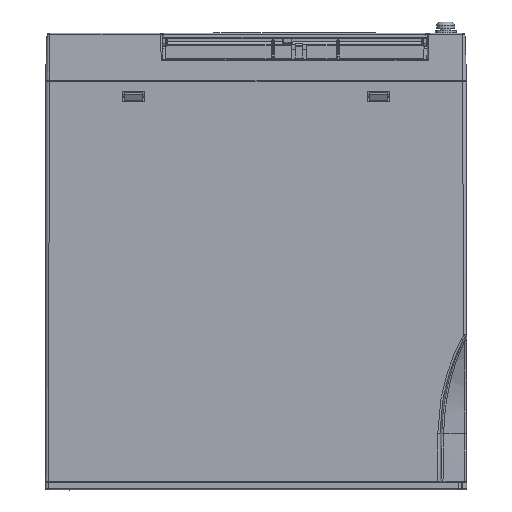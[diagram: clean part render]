
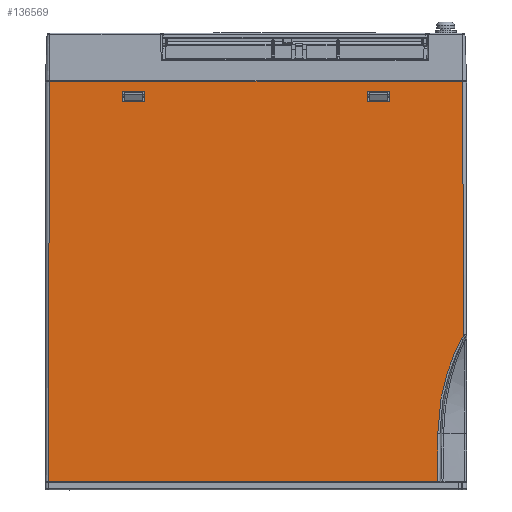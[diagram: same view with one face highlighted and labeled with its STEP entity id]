
A CAD part, front view. The second image highlights one B-rep face of the part: STEP entity #136569.
In plain terms, the highlighted planar face has unit normal (0, -1, 0).
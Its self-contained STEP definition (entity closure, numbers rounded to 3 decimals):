
#133367=CARTESIAN_POINT('',(77.92,-25.,
57.265));
#133368=CARTESIAN_POINT('',(78.082,-25.,
57.575));
#133369=CARTESIAN_POINT('',(78.426,-25.,
58.148));
#133370=CARTESIAN_POINT('',(78.803,-25.,
58.632));
#133371=CARTESIAN_POINT('',(79.003,-25.,
58.85));
#133373=CARTESIAN_POINT('',(69.075,-25.,
21.396));
#133374=CARTESIAN_POINT('',(69.075,-25.,
22.887));
#133375=CARTESIAN_POINT('',(69.166,-25.,
25.731));
#133376=CARTESIAN_POINT('',(69.488,-25.,
29.547));
#133377=CARTESIAN_POINT('',(69.948,-25.,
33.037));
#133378=CARTESIAN_POINT('',(70.517,-25.,
36.261));
#133379=CARTESIAN_POINT('',(71.146,-25.,
39.14));
#133380=CARTESIAN_POINT('',(71.812,-25.,
41.741));
#133381=CARTESIAN_POINT('',(72.501,-25.,
44.106));
#133382=CARTESIAN_POINT('',(73.216,-25.,
46.306));
#133383=CARTESIAN_POINT('',(73.943,-25.,
48.345));
#133384=CARTESIAN_POINT('',(74.665,-25.,
50.209));
#133385=CARTESIAN_POINT('',(75.371,-25.,
51.908));
#133386=CARTESIAN_POINT('',(76.056,-25.,
53.458));
#133387=CARTESIAN_POINT('',(76.712,-25.,
54.861));
#133388=CARTESIAN_POINT('',(77.335,-25.,
56.13));
#133389=CARTESIAN_POINT('',(77.73,-25.,
56.9));
#133390=CARTESIAN_POINT('',(77.92,-25.,
57.265));
#133392=CARTESIAN_POINT('',(69.043,-25.,3.2));
#133393=CARTESIAN_POINT('',(69.047,-25.,
5.212));
#133394=CARTESIAN_POINT('',(69.053,-25.,
9.243));
#133395=CARTESIAN_POINT('',(69.064,-25.,
15.31));
#133396=CARTESIAN_POINT('',(69.071,-25.,
19.365));
#133397=CARTESIAN_POINT('',(69.075,-25.,
21.396));
#133399=DIRECTION('',(-0.004,0.,-1.));
#133400=VECTOR('',#133399,152.151);
#133401=CARTESIAN_POINT('',(-78.4,-25.,155.35));
#133402=LINE('',#133401,#133400);
#133403=DIRECTION('',(1.,0.,0.));
#133404=VECTOR('',#133403,156.8);
#133405=CARTESIAN_POINT('',(-78.4,-25.,155.35));
#133406=LINE('',#133405,#133404);
#133407=DIRECTION('',(0.006,0.,-1.));
#133408=VECTOR('',#133407,96.502);
#133409=CARTESIAN_POINT('',(78.4,-25.,155.35));
#133410=LINE('',#133409,#133408);
#133415=DIRECTION('',(-1.,0.,0.));
#133416=VECTOR('',#133415,7.6);
#133417=CARTESIAN_POINT('',(50.4,-25.,147.6));
#133418=LINE('',#133417,#133416);
#133433=CARTESIAN_POINT('',(50.4,-25.,148.1));
#133434=DIRECTION('',(0.,1.,0.));
#133435=DIRECTION('',(1.,0.,0.));
#133436=AXIS2_PLACEMENT_3D('',#133433,#133434,#133435);
#133446=DIRECTION('',(0.,0.,1.));
#133447=VECTOR('',#133446,2.75);
#133448=CARTESIAN_POINT('',(50.9,-25.,148.1));
#133449=LINE('',#133448,#133447);
#133458=CARTESIAN_POINT('',(50.4,-25.,150.85));
#133459=DIRECTION('',(0.,1.,0.));
#133460=DIRECTION('',(0.,0.,1.));
#133461=AXIS2_PLACEMENT_3D('',#133458,#133459,#133460);
#133480=DIRECTION('',(1.,0.,0.));
#133481=VECTOR('',#133480,7.6);
#133482=CARTESIAN_POINT('',(42.8,-25.,151.35));
#133483=LINE('',#133482,#133481);
#133504=CARTESIAN_POINT('',(42.8,-25.,148.1));
#133505=DIRECTION('',(0.,1.,0.));
#133506=DIRECTION('',(0.,0.,-1.));
#133507=AXIS2_PLACEMENT_3D('',#133504,#133505,#133506);
#133519=DIRECTION('',(0.,0.,-1.));
#133520=VECTOR('',#133519,2.75);
#133521=CARTESIAN_POINT('',(42.3,-25.,150.85));
#133522=LINE('',#133521,#133520);
#133536=CARTESIAN_POINT('',(42.8,-25.,150.85));
#133537=DIRECTION('',(0.,1.,0.));
#133538=DIRECTION('',(-1.,0.,0.));
#133539=AXIS2_PLACEMENT_3D('',#133536,#133537,#133538);
#133541=CARTESIAN_POINT('',(78.4,-25.,155.35));
#133551=CARTESIAN_POINT('',(-78.4,-25.,155.35));
#134218=CARTESIAN_POINT('',(-79.,-25.,3.2));
#134224=DIRECTION('',(1.,0.,0.));
#134225=VECTOR('',#134224,148.043);
#134226=CARTESIAN_POINT('',(-79.,-25.,3.2));
#134227=LINE('',#134226,#134225);
#134234=CARTESIAN_POINT('',(69.043,-25.,3.2));
#135736=DIRECTION('',(0.,0.,1.));
#135737=VECTOR('',#135736,2.75);
#135738=CARTESIAN_POINT('',(-42.3,-25.,148.1));
#135739=LINE('',#135738,#135737);
#135748=CARTESIAN_POINT('',(-42.8,-25.,150.85));
#135749=DIRECTION('',(0.,1.,0.));
#135750=DIRECTION('',(0.,0.,1.));
#135751=AXIS2_PLACEMENT_3D('',#135748,#135749,#135750);
#135762=DIRECTION('',(1.,0.,0.));
#135763=VECTOR('',#135762,7.6);
#135764=CARTESIAN_POINT('',(-50.4,-25.,151.35));
#135765=LINE('',#135764,#135763);
#135779=CARTESIAN_POINT('',(-50.4,-25.,150.85));
#135780=DIRECTION('',(0.,1.,0.));
#135781=DIRECTION('',(-1.,0.,0.));
#135782=AXIS2_PLACEMENT_3D('',#135779,#135780,#135781);
#135788=DIRECTION('',(0.,0.,-1.));
#135789=VECTOR('',#135788,2.75);
#135790=CARTESIAN_POINT('',(-50.9,-25.,150.85));
#135791=LINE('',#135790,#135789);
#135800=CARTESIAN_POINT('',(-50.4,-25.,148.1));
#135801=DIRECTION('',(0.,1.,0.));
#135802=DIRECTION('',(0.,0.,-1.));
#135803=AXIS2_PLACEMENT_3D('',#135800,#135801,#135802);
#135823=DIRECTION('',(-1.,0.,0.));
#135824=VECTOR('',#135823,7.6);
#135825=CARTESIAN_POINT('',(-42.8,-25.,147.6));
#135826=LINE('',#135825,#135824);
#135837=CARTESIAN_POINT('',(-42.8,-25.,148.1));
#135838=DIRECTION('',(0.,1.,0.));
#135839=DIRECTION('',(1.,0.,0.));
#135840=AXIS2_PLACEMENT_3D('',#135837,#135838,#135839);
#135990=VERTEX_POINT('',#134218);
#135994=VERTEX_POINT('',#133551);
#136247=CARTESIAN_POINT('',(50.4,-25.,151.35));
#136249=VERTEX_POINT('',#136247);
#136251=CARTESIAN_POINT('',(50.9,-25.,150.85));
#136253=VERTEX_POINT('',#136251);
#136256=CARTESIAN_POINT('',(50.4,-25.,147.6));
#136258=VERTEX_POINT('',#136256);
#136260=CARTESIAN_POINT('',(50.9,-25.,148.1));
#136262=VERTEX_POINT('',#136260);
#136263=CARTESIAN_POINT('',(42.8,-25.,147.6));
#136265=VERTEX_POINT('',#136263);
#136267=CARTESIAN_POINT('',(42.3,-25.,148.1));
#136269=VERTEX_POINT('',#136267);
#136272=CARTESIAN_POINT('',(42.8,-25.,151.35));
#136274=VERTEX_POINT('',#136272);
#136276=CARTESIAN_POINT('',(42.3,-25.,150.85));
#136278=VERTEX_POINT('',#136276);
#136279=CARTESIAN_POINT('',(-50.4,-25.,147.6));
#136281=VERTEX_POINT('',#136279);
#136283=CARTESIAN_POINT('',(-50.9,-25.,148.1));
#136285=VERTEX_POINT('',#136283);
#136288=CARTESIAN_POINT('',(-50.4,-25.,151.35));
#136290=VERTEX_POINT('',#136288);
#136292=CARTESIAN_POINT('',(-50.9,-25.,150.85));
#136294=VERTEX_POINT('',#136292);
#136295=CARTESIAN_POINT('',(-42.8,-25.,151.35));
#136297=VERTEX_POINT('',#136295);
#136299=CARTESIAN_POINT('',(-42.3,-25.,150.85));
#136301=VERTEX_POINT('',#136299);
#136304=CARTESIAN_POINT('',(-42.8,-25.,147.6));
#136306=VERTEX_POINT('',#136304);
#136308=CARTESIAN_POINT('',(-42.3,-25.,148.1));
#136310=VERTEX_POINT('',#136308);
#136362=VERTEX_POINT('',#133367);
#136363=VERTEX_POINT('',#133371);
#136366=VERTEX_POINT('',#133373);
#136369=VERTEX_POINT('',#134234);
#136450=VERTEX_POINT('',#133541);
#136512=CARTESIAN_POINT('',(50.,-25.,13.));
#136513=DIRECTION('',(0.,1.,0.));
#136514=DIRECTION('',(0.,0.,1.));
#136515=AXIS2_PLACEMENT_3D('',#136512,#136513,#136514);
#136516=PLANE('',#136515);
#136518=ORIENTED_EDGE('',*,*,#136517,.F.);
#136520=ORIENTED_EDGE('',*,*,#136519,.F.);
#136522=ORIENTED_EDGE('',*,*,#136521,.F.);
#136524=ORIENTED_EDGE('',*,*,#136523,.F.);
#136526=ORIENTED_EDGE('',*,*,#136525,.F.);
#136528=ORIENTED_EDGE('',*,*,#136527,.T.);
#136530=ORIENTED_EDGE('',*,*,#136529,.T.);
#136531=EDGE_LOOP('',(#136518,#136520,#136522,#136524,#136526,#136528,#136530));
#136532=FACE_OUTER_BOUND('',#136531,.F.);
#136534=ORIENTED_EDGE('',*,*,#136533,.T.);
#136536=ORIENTED_EDGE('',*,*,#136535,.F.);
#136538=ORIENTED_EDGE('',*,*,#136537,.F.);
#136540=ORIENTED_EDGE('',*,*,#136539,.F.);
#136542=ORIENTED_EDGE('',*,*,#136541,.T.);
#136544=ORIENTED_EDGE('',*,*,#136543,.F.);
#136546=ORIENTED_EDGE('',*,*,#136545,.F.);
#136548=ORIENTED_EDGE('',*,*,#136547,.F.);
#136549=EDGE_LOOP('',(#136534,#136536,#136538,#136540,#136542,#136544,#136546,
#136548));
#136550=FACE_BOUND('',#136549,.F.);
#136552=ORIENTED_EDGE('',*,*,#136551,.F.);
#136554=ORIENTED_EDGE('',*,*,#136553,.F.);
#136556=ORIENTED_EDGE('',*,*,#136555,.T.);
#136558=ORIENTED_EDGE('',*,*,#136557,.F.);
#136560=ORIENTED_EDGE('',*,*,#136559,.F.);
#136562=ORIENTED_EDGE('',*,*,#136561,.F.);
#136564=ORIENTED_EDGE('',*,*,#136563,.T.);
#136566=ORIENTED_EDGE('',*,*,#136565,.F.);
#136567=EDGE_LOOP('',(#136552,#136554,#136556,#136558,#136560,#136562,#136564,
#136566));
#136568=FACE_BOUND('',#136567,.F.);
#136569=ADVANCED_FACE('',(#136532,#136550,#136568),#136516,.F.);
#133372=B_SPLINE_CURVE_WITH_KNOTS('',3,(#133367,#133368,#133369,#133370,
#133371),.UNSPECIFIED.,.F.,.F.,(4,1,4),(0.,0.5,1.),.UNSPECIFIED.);
#133391=B_SPLINE_CURVE_WITH_KNOTS('',3,(#133373,#133374,#133375,#133376,#133377,
#133378,#133379,#133380,#133381,#133382,#133383,#133384,#133385,#133386,#133387,
#133388,#133389,#133390),.UNSPECIFIED.,.F.,.F.,(4,1,1,1,1,1,1,1,1,1,1,1,1,1,1,
4),(0.,0.067,0.133,0.2,0.267,
0.333,0.4,0.467,0.533,0.6,
0.667,0.733,0.8,0.867,0.933,
1.),.UNSPECIFIED.);
#133398=B_SPLINE_CURVE_WITH_KNOTS('',3,(#133392,#133393,#133394,#133395,#133396,
#133397),.UNSPECIFIED.,.F.,.F.,(4,1,1,4),(0.,0.333,
0.667,1.),.UNSPECIFIED.);
#133437=CIRCLE('',#133436,0.5);
#133462=CIRCLE('',#133461,0.5);
#133508=CIRCLE('',#133507,0.5);
#133540=CIRCLE('',#133539,0.5);
#135752=CIRCLE('',#135751,0.5);
#135783=CIRCLE('',#135782,0.5);
#135804=CIRCLE('',#135803,0.5);
#135841=CIRCLE('',#135840,0.5);
#136517=EDGE_CURVE('',#136362,#136363,#133372,.T.);
#136519=EDGE_CURVE('',#136366,#136362,#133391,.T.);
#136521=EDGE_CURVE('',#136369,#136366,#133398,.T.);
#136523=EDGE_CURVE('',#135990,#136369,#134227,.T.);
#136525=EDGE_CURVE('',#135994,#135990,#133402,.T.);
#136527=EDGE_CURVE('',#135994,#136450,#133406,.T.);
#136529=EDGE_CURVE('',#136450,#136363,#133410,.T.);
#136533=EDGE_CURVE('',#136294,#136285,#135791,.T.);
#136535=EDGE_CURVE('',#136281,#136285,#135804,.T.);
#136537=EDGE_CURVE('',#136306,#136281,#135826,.T.);
#136539=EDGE_CURVE('',#136310,#136306,#135841,.T.);
#136541=EDGE_CURVE('',#136310,#136301,#135739,.T.);
#136543=EDGE_CURVE('',#136297,#136301,#135752,.T.);
#136545=EDGE_CURVE('',#136290,#136297,#135765,.T.);
#136547=EDGE_CURVE('',#136294,#136290,#135783,.T.);
#136551=EDGE_CURVE('',#136258,#136265,#133418,.T.);
#136553=EDGE_CURVE('',#136262,#136258,#133437,.T.);
#136555=EDGE_CURVE('',#136262,#136253,#133449,.T.);
#136557=EDGE_CURVE('',#136249,#136253,#133462,.T.);
#136559=EDGE_CURVE('',#136274,#136249,#133483,.T.);
#136561=EDGE_CURVE('',#136278,#136274,#133540,.T.);
#136563=EDGE_CURVE('',#136278,#136269,#133522,.T.);
#136565=EDGE_CURVE('',#136265,#136269,#133508,.T.);
